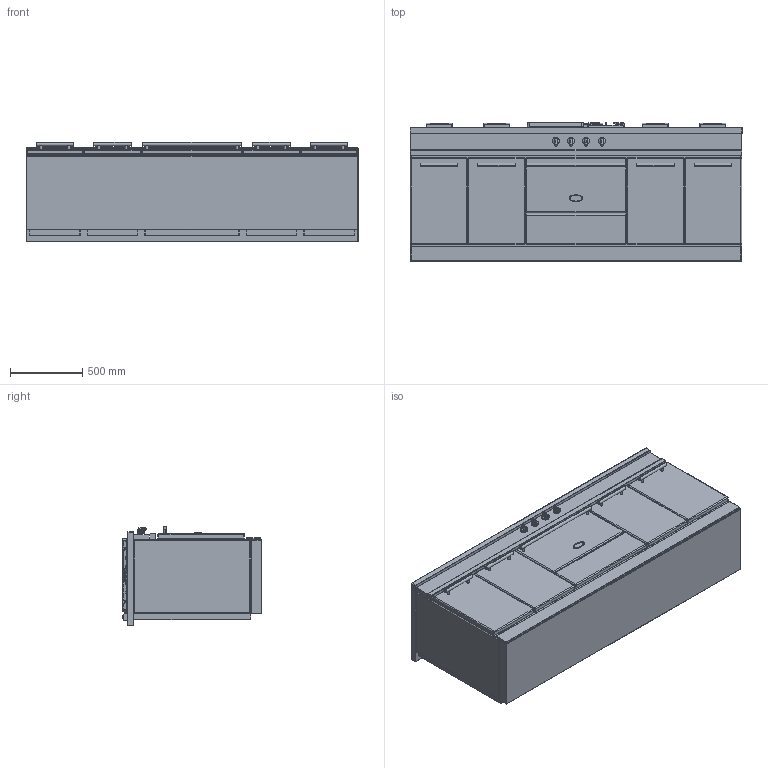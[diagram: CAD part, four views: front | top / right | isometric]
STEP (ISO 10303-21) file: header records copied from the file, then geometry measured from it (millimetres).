
FILE_DESCRIPTION((''),'2;1');
FILE_NAME('LMCF2331_ASM','2022-04-13T13:17:48',('stagiaire'),(''),'CREO PARAMETRIC BY PTC INC, 2021424','CREO PARAMETRIC BY PTC INC, 2021424','');
FILE_SCHEMA(('AP203_CONFIGURATION_CONTROLLED_3D_DESIGN_OF_MECHANICAL_PARTS_AND_ASSEMBLIES_MIM_LF { 1 0 10303 403 2 1 2 }'));
Products named in the file (21): BASE_EXPORT_FONTENAY_LMG2331; 65049009; 65650001; 65064012; 19150009; 88064012_ASM; BASE_EXPORT_FONTENAY_LMG2331_ASM; TABLE_2300_CLASSIQUE_3_FEUX; 5KW; 1_5KW; 3KW; 6537023; 65149005; 90000565_ASM; 65062008; 65062012; 90000549_ASM; CHEMINEE_2020_LG371_EXPORT_STEP; CHEMINEE_2020_LG182_EXPORT_STEP; TABLE_2300_TRADITION_ASM; LMCF2331_ASM
Assembly tree (33 placements, depth 4):
  LMCF2331_ASM
    BASE_EXPORT_FONTENAY_LMG2331_ASM
      BASE_EXPORT_FONTENAY_LMG2331
      65049009
      65650001
      88064012_ASM  x4
        65064012
        19150009
    TABLE_2300_TRADITION_ASM
      TABLE_2300_CLASSIQUE_3_FEUX
      5KW
      1_5KW
      3KW
      90000565_ASM
        6537023
        65149005  x4
      90000549_ASM
        65062008
        65062012
        65149005  x4
      CHEMINEE_2020_LG371_EXPORT_STEP
      CHEMINEE_2020_LG182_EXPORT_STEP  x4
Bounding box: 2305 x 967 x 688.5 mm (x, y, z)
Volume: 1243324258.9 mm3; surface area: 17280323.9 mm2
Topology: 35 solids, 35 shells, 6093 faces, 16684 edges, 10577 vertices
Faces by surface type: plane 2750, cylinder 1895, bspline 750, sphere 320, torus 204, cone 152, extrusion 22
Entity records: 210533 total; most frequent: CARTESIAN_POINT 59694, ORIENTED_EDGE 24658, DIRECTION 22923, EDGE_CURVE 12329, PRESENTATION_STYLE_ASSIGNMENT 8929, STYLED_ITEM 8929, CURVE_STYLE 8747, VECTOR 8511
